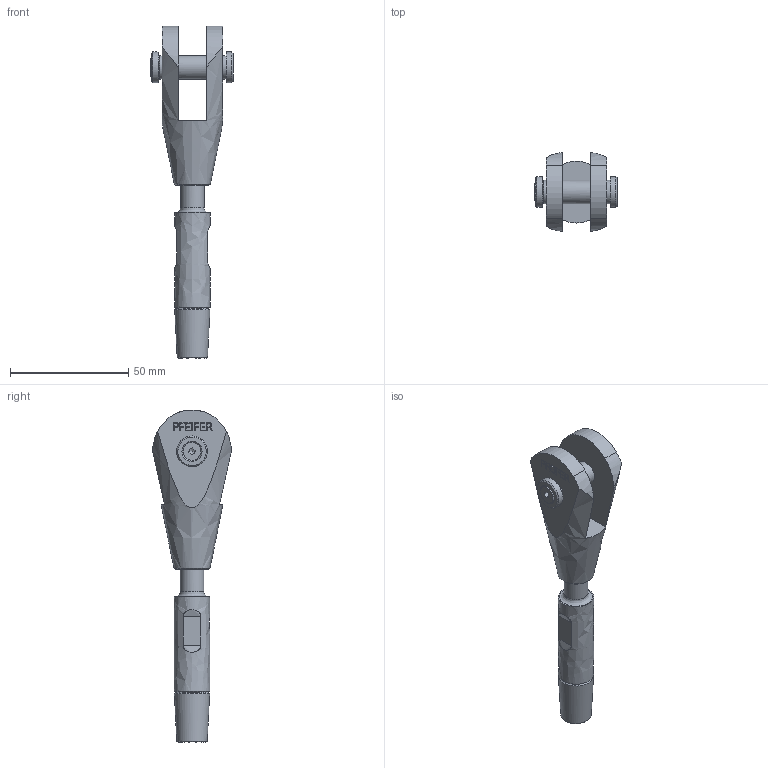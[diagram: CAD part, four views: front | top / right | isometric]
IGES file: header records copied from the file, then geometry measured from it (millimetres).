
Global section: file name: 520-010-GAK-ADA; native system: Autodesk Inventor 2016; preprocessor: unknown; author: Administrator; date: 20200703.130244; units: centimetre
Bounding box: 34.78 x 33.25 x 140.5 mm (x, y, z)
Volume: 34342.7 mm3; surface area: 12483 mm2
Topology: 1 solids, 2 shells, 197 faces, 518 edges, 348 vertices
Faces by surface type: bspline 197
